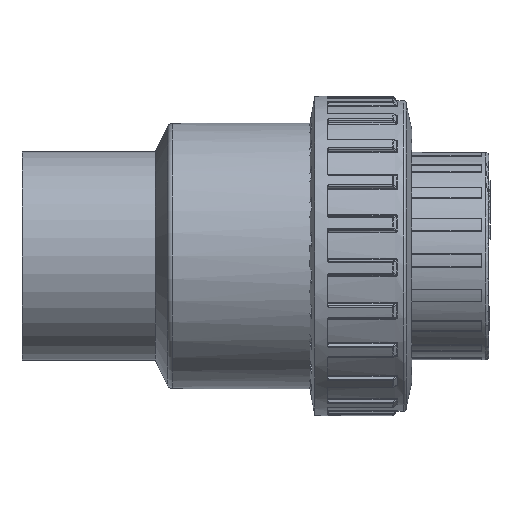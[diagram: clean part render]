
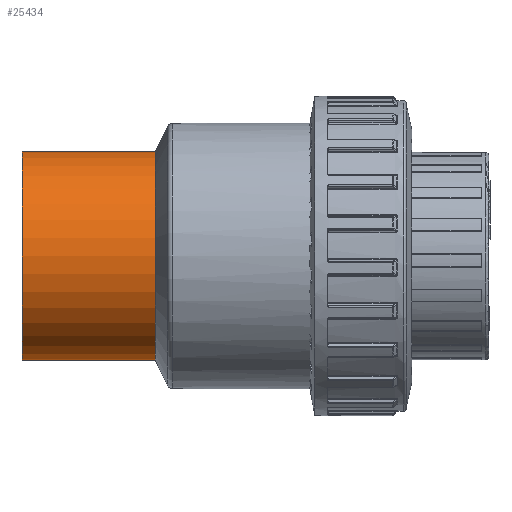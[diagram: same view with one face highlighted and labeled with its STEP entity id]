
A CAD part, front view. The second image highlights one B-rep face of the part: STEP entity #25434.
In plain terms, the highlighted cylindrical face has radius 37.5 mm (diameter 75 mm), a full revolution.
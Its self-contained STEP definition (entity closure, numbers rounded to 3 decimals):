
#5673=CYLINDRICAL_SURFACE('',#27211,37.5);
#6010=FACE_BOUND('',#7749,.T.);
#6162=FACE_OUTER_BOUND('',#7748,.T.);
#7748=EDGE_LOOP('',(#17349));
#7749=EDGE_LOOP('',(#17350));
#9407=CIRCLE('',#27160,37.5);
#9430=CIRCLE('',#27210,37.5);
#10649=VERTEX_POINT('',#37406);
#10689=VERTEX_POINT('',#38391);
#13228=EDGE_CURVE('',#10649,#10649,#9407,.T.);
#13284=EDGE_CURVE('',#10689,#10689,#9430,.T.);
#17349=ORIENTED_EDGE('',*,*,#13228,.F.);
#17350=ORIENTED_EDGE('',*,*,#13284,.T.);
#25434=ADVANCED_FACE('',(#6162,#6010),#5673,.T.);
#27160=AXIS2_PLACEMENT_3D('',#37407,#29900,#29901);
#27210=AXIS2_PLACEMENT_3D('',#38392,#30029,#30030);
#27211=AXIS2_PLACEMENT_3D('',#38393,#30031,#30032);
#29900=DIRECTION('center_axis',(1.,0.,0.));
#29901=DIRECTION('ref_axis',(0.,0.,-1.));
#30029=DIRECTION('center_axis',(1.,0.,0.));
#30030=DIRECTION('ref_axis',(0.,0.,-1.));
#30031=DIRECTION('center_axis',(1.,0.,0.));
#30032=DIRECTION('ref_axis',(0.,1.,0.));
#37406=CARTESIAN_POINT('',(36.856,37.5,0.));
#37407=CARTESIAN_POINT('Origin',(36.856,0.,
0.));
#38391=CARTESIAN_POINT('',(-11.144,37.5,0.));
#38392=CARTESIAN_POINT('Origin',(-11.144,0.,
0.));
#38393=CARTESIAN_POINT('Origin',(12.856,0.,
0.));
